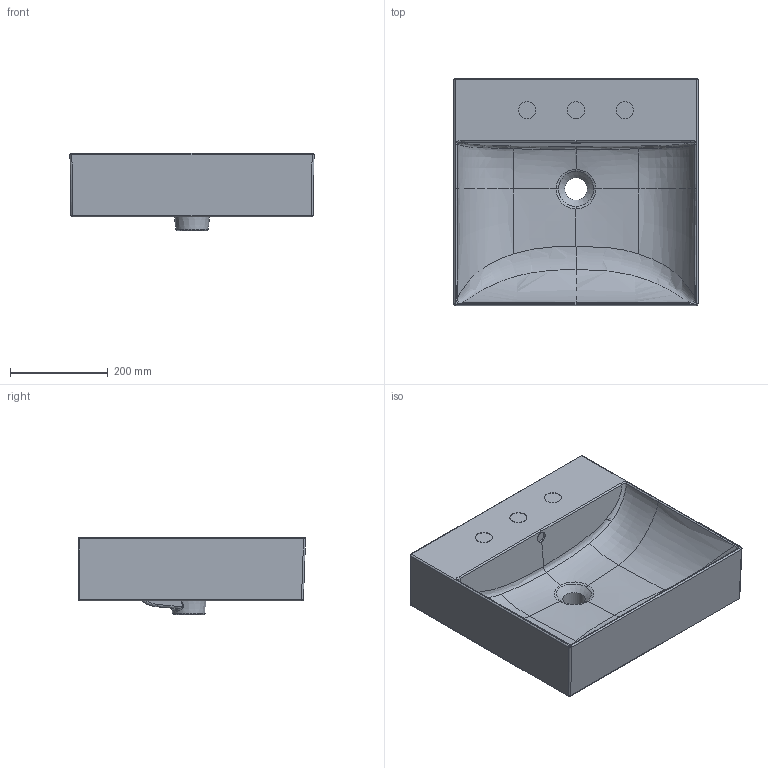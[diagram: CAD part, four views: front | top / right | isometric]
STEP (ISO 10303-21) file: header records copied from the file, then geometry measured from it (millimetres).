
FILE_DESCRIPTION(/* description */ (''),/* implementation_level */ '2;1');
FILE_NAME(/* name */ 'LAVABO_50X46.5_PROTAP_01_20200825.stp',/* time_stamp */ '2020-10-08T13:32:42+02:00',/* author */ (''),/* organization */ (''),/* preprocessor_version */ 'ST-DEVELOPER v16.7',/* originating_system */ 'SIEMENS PLM Software NX 12.0',/* authorisation */ '');
FILE_SCHEMA (('AUTOMOTIVE_DESIGN { 1 0 10303 214 3 1 1 1 }'));
Length unit declared in the file: millimetre
Products named in the file (1): Bera5A889F5Dvfn7
Bounding box: 499.89 x 464.89 x 158.02 mm (x, y, z)
Volume: 10525554.8 mm3; surface area: 899676.8 mm2
Topology: 1 solids, 1 shells, 473 faces, 1154 edges, 677 vertices
Faces by surface type: bspline 291, cylinder 96, plane 47, torus 18, sphere 12, extrusion 6, cone 3
Full cylindrical faces by diameter (mm): 10 x6, 22 x1, 35 x3, 46 x1, 50 x3
Entity records: 34159 total; most frequent: CARTESIAN_POINT 25366, ORIENTED_EDGE 2198, DIRECTION 1203, EDGE_CURVE 1099, VERTEX_POINT 668, B_SPLINE_CURVE_WITH_KNOTS 605, AXIS2_PLACEMENT_3D 520, EDGE_LOOP 519
